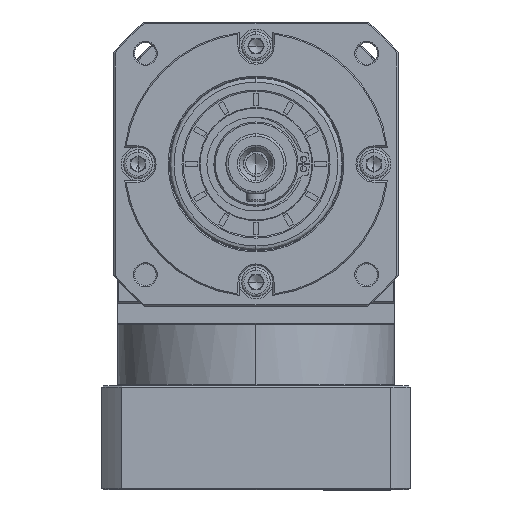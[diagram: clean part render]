
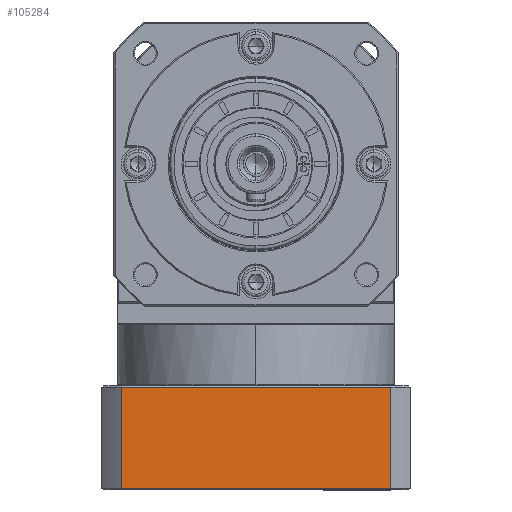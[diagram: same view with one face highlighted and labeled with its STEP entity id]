
A CAD part, top view. The second image highlights one B-rep face of the part: STEP entity #105284.
In plain terms, the highlighted planar face has unit normal (0, 0, 1).
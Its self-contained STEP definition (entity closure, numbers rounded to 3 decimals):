
#2321 = VECTOR ( 'NONE', #27190, 1000. ) ;
#10106 = LINE ( 'NONE', #100130, #151759 ) ;
#11794 = AXIS2_PLACEMENT_3D ( 'NONE', #33067, #97872, #19351 ) ;
#19351 = DIRECTION ( 'NONE',  ( -1., 0., 0. ) ) ;
#27190 = DIRECTION ( 'NONE',  ( 0., 1., 0. ) ) ;
#29269 = FACE_OUTER_BOUND ( 'NONE', #161175, .T. ) ;
#32441 = CARTESIAN_POINT ( 'NONE',  ( -222.652, -204.804, 127.258 ) ) ;
#33067 = CARTESIAN_POINT ( 'NONE',  ( -222.652, -205.304, 127.258 ) ) ;
#34933 = EDGE_CURVE ( 'NONE', #75144, #87803, #10106, .T. ) ;
#36246 = CARTESIAN_POINT ( 'NONE',  ( -102.715, 90.11, 127.258 ) ) ;
#36431 = VERTEX_POINT ( 'NONE', #133019 ) ;
#43465 = EDGE_CURVE ( 'NONE', #87803, #36431, #118320, .T. ) ;
#45340 = LINE ( 'NONE', #94228, #2321 ) ;
#47724 = EDGE_CURVE ( 'NONE', #104970, #75144, #45340, .T. ) ;
#50523 = DIRECTION ( 'NONE',  ( 0., -1., 0. ) ) ;
#63646 = CARTESIAN_POINT ( 'NONE',  ( -214.59, -162.804, 127.258 ) ) ;
#75144 = VERTEX_POINT ( 'NONE', #63646 ) ;
#75825 = VECTOR ( 'NONE', #149447, 1000. ) ;
#81000 = ORIENTED_EDGE ( 'NONE', *, *, #47724, .F. ) ;
#87803 = VERTEX_POINT ( 'NONE', #148838 ) ;
#94228 = CARTESIAN_POINT ( 'NONE',  ( -214.59, -205.304, 127.258 ) ) ;
#97872 = DIRECTION ( 'NONE',  ( 0., 0., -1. ) ) ;
#100130 = CARTESIAN_POINT ( 'NONE',  ( -222.652, -162.804, 127.258 ) ) ;
#104970 = VERTEX_POINT ( 'NONE', #154776 ) ;
#105284 = ADVANCED_FACE ( 'NONE', ( #29269 ), #152337, .F. ) ;
#106449 = ORIENTED_EDGE ( 'NONE', *, *, #34933, .F. ) ;
#110786 = LINE ( 'NONE', #32441, #75825 ) ;
#118320 = LINE ( 'NONE', #36246, #122428 ) ;
#118376 = ORIENTED_EDGE ( 'NONE', *, *, #156078, .F. ) ;
#122428 = VECTOR ( 'NONE', #50523, 1000. ) ;
#133019 = CARTESIAN_POINT ( 'NONE',  ( -102.715, -204.804, 127.258 ) ) ;
#143304 = ORIENTED_EDGE ( 'NONE', *, *, #43465, .F. ) ;
#148838 = CARTESIAN_POINT ( 'NONE',  ( -102.715, -162.804, 127.258 ) ) ;
#149447 = DIRECTION ( 'NONE',  ( -1., 0., 0. ) ) ;
#151759 = VECTOR ( 'NONE', #155151, 1000. ) ;
#152337 = PLANE ( 'NONE',  #11794 ) ;
#154776 = CARTESIAN_POINT ( 'NONE',  ( -214.59, -204.804, 127.258 ) ) ;
#155151 = DIRECTION ( 'NONE',  ( 1., 0., 0. ) ) ;
#156078 = EDGE_CURVE ( 'NONE', #36431, #104970, #110786, .T. ) ;
#161175 = EDGE_LOOP ( 'NONE', ( #143304, #106449, #81000, #118376 ) ) ;
